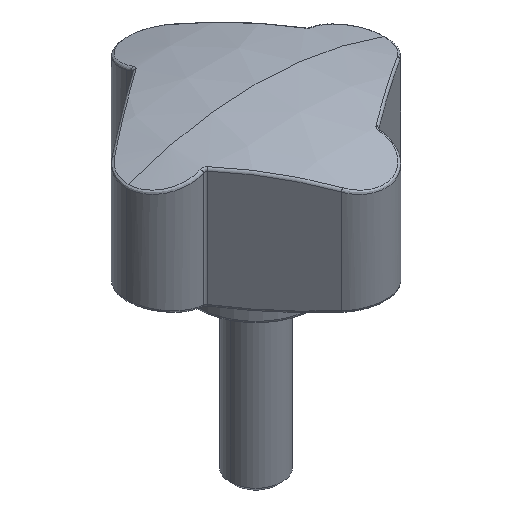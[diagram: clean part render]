
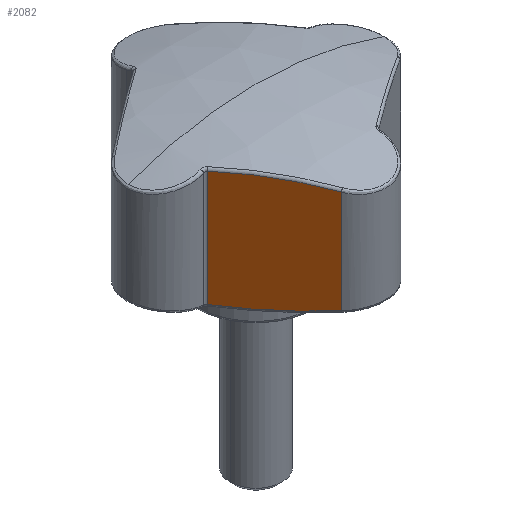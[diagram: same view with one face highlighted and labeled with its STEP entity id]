
A CAD part, isometric view. The second image highlights one B-rep face of the part: STEP entity #2082.
In plain terms, the highlighted planar face has unit normal (-0.809, -0.588, 0).
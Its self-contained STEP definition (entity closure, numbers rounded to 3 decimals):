
#2029 = VERTEX_POINT ( 'NONE', #4204 ) ;
#2030 = VERTEX_POINT ( 'NONE', #4216 ) ;
#2034 = EDGE_CURVE ( 'NONE', #2030, #2029, #4252, .T. ) ;
#2081 = EDGE_LOOP ( 'NONE', ( #2096, #2097, #2088, #2098 ) ) ;
#2082 = ADVANCED_FACE ( 'NONE', ( #4383 ), #4432, .T. ) ;
#2084 = EDGE_CURVE ( 'NONE', #2089, #2094, #4404, .T. ) ;
#2088 = ORIENTED_EDGE ( 'NONE', *, *, #2034, .F. ) ;
#2089 = VERTEX_POINT ( 'NONE', #4401 ) ;
#2094 = VERTEX_POINT ( 'NONE', #4434 ) ;
#2095 = EDGE_CURVE ( 'NONE', #2030, #2089, #4403, .T. ) ;
#2096 = ORIENTED_EDGE ( 'NONE', *, *, #2084, .T. ) ;
#2097 = ORIENTED_EDGE ( 'NONE', *, *, #2099, .T. ) ;
#2098 = ORIENTED_EDGE ( 'NONE', *, *, #2095, .T. ) ;
#2099 = EDGE_CURVE ( 'NONE', #2094, #2029, #4475, .T. ) ;
#4204 = CARTESIAN_POINT ( 'NONE',  ( -5.663, -22.114, 8.001 ) ) ;
#4216 = CARTESIAN_POINT ( 'NONE',  ( -5.663, -22.114, 27.832 ) ) ;
#4244 = DIRECTION ( 'NONE',  ( 0., 0., -1. ) ) ;
#4245 = VECTOR ( 'NONE', #4244, 1000. ) ;
#4246 = CARTESIAN_POINT ( 'NONE',  ( -5.663, -22.114, 35. ) ) ;
#4252 = LINE ( 'NONE', #4246, #4245 ) ;
#4383 = FACE_OUTER_BOUND ( 'NONE', #2081, .T. ) ;
#4401 = CARTESIAN_POINT ( 'NONE',  ( -16.548, -7.133, 29.285 ) ) ;
#4403 = CIRCLE ( 'NONE', #4505, 68.4 ) ;
#4404 = LINE ( 'NONE', #4439, #4438 ) ;
#4405 = DIRECTION ( 'NONE',  ( 0.588, -0.809, 0. ) ) ;
#4406 = DIRECTION ( 'NONE',  ( -0.809, -0.588, 0. ) ) ;
#4407 = CARTESIAN_POINT ( 'NONE',  ( -5.663, -22.114, 35. ) ) ;
#4408 = AXIS2_PLACEMENT_3D ( 'NONE', #4407, #4406, #4405 ) ;
#4432 = PLANE ( 'NONE',  #4408 ) ;
#4434 = CARTESIAN_POINT ( 'NONE',  ( -16.548, -7.133, 6.993 ) ) ;
#4437 = DIRECTION ( 'NONE',  ( 0., 0., -1. ) ) ;
#4438 = VECTOR ( 'NONE', #4437, 1000. ) ;
#4439 = CARTESIAN_POINT ( 'NONE',  ( -16.548, -7.133, 6.586 ) ) ;
#4475 = CIRCLE ( 'NONE', #4547, 98.023 ) ;
#4476 = DIRECTION ( 'NONE',  ( 0.588, -0.809, 0. ) ) ;
#4477 = DIRECTION ( 'NONE',  ( -0.809, -0.588, 0. ) ) ;
#4478 = CARTESIAN_POINT ( 'NONE',  ( -14.223, -10.333, -39. ) ) ;
#4505 = AXIS2_PLACEMENT_3D ( 'NONE', #4478, #4477, #4476 ) ;
#4507 = CARTESIAN_POINT ( 'NONE',  ( -14.223, -10.333, 104.937 ) ) ;
#4545 = DIRECTION ( 'NONE',  ( 0.588, -0.809, 0. ) ) ;
#4546 = DIRECTION ( 'NONE',  ( -0.809, -0.588, 0. ) ) ;
#4547 = AXIS2_PLACEMENT_3D ( 'NONE', #4507, #4546, #4545 ) ;
